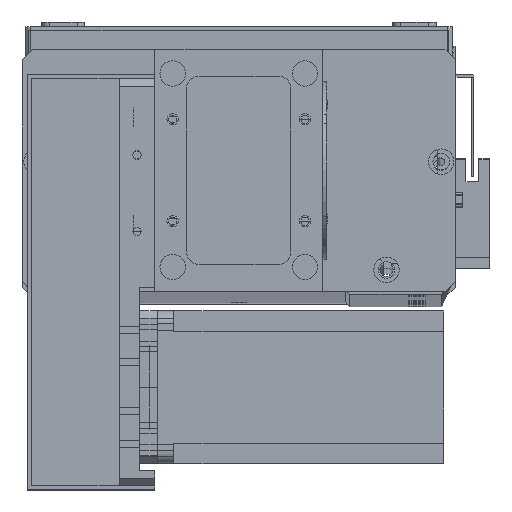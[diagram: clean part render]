
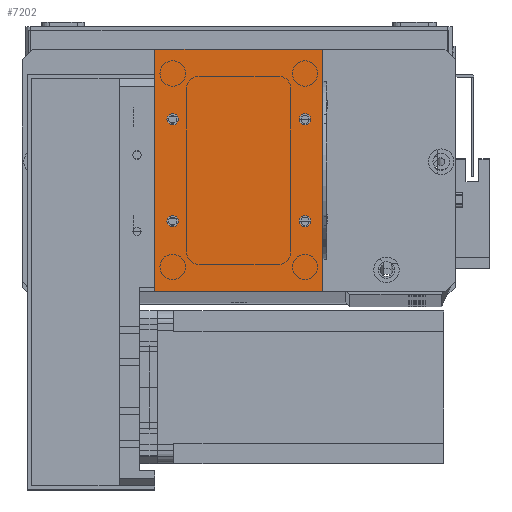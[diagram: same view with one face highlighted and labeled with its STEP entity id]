
A CAD part, top view. The second image highlights one B-rep face of the part: STEP entity #7202.
In plain terms, the highlighted planar face has unit normal (0, 0, 1).
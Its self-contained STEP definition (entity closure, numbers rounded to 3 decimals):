
#50 = VERTEX_POINT ( 'NONE', #9974 ) ;
#257 = FACE_BOUND ( 'NONE', #605, .T. ) ;
#336 = VERTEX_POINT ( 'NONE', #26473 ) ;
#574 = ORIENTED_EDGE ( 'NONE', *, *, #32109, .F. ) ;
#605 = EDGE_LOOP ( 'NONE', ( #28806, #15089 ) ) ;
#908 = ORIENTED_EDGE ( 'NONE', *, *, #6958, .F. ) ;
#1001 = PLANE ( 'NONE',  #17446 ) ;
#1168 = EDGE_CURVE ( 'NONE', #23320, #24716, #13493, .T. ) ;
#1724 = VERTEX_POINT ( 'NONE', #21221 ) ;
#2041 = EDGE_CURVE ( 'NONE', #25217, #5620, #30719, .T. ) ;
#2094 = CARTESIAN_POINT ( 'NONE',  ( 66., 0., 2. ) ) ;
#2713 = EDGE_LOOP ( 'NONE', ( #14219, #908 ) ) ;
#2746 = CIRCLE ( 'NONE', #27483, 2.25 ) ;
#3470 = ORIENTED_EDGE ( 'NONE', *, *, #17166, .T. ) ;
#4189 = VECTOR ( 'NONE', #4446, 1000. ) ;
#4446 = DIRECTION ( 'NONE',  ( 1., 0., 0. ) ) ;
#4497 = EDGE_LOOP ( 'NONE', ( #13840, #25683 ) ) ;
#4520 = DIRECTION ( 'NONE',  ( -1., 0., 0. ) ) ;
#4844 = DIRECTION ( 'NONE',  ( 0., 0., -1. ) ) ;
#4992 = ORIENTED_EDGE ( 'NONE', *, *, #11005, .F. ) ;
#5620 = VERTEX_POINT ( 'NONE', #24809 ) ;
#5787 = EDGE_LOOP ( 'NONE', ( #4992, #574 ) ) ;
#6302 = LINE ( 'NONE', #21252, #12642 ) ;
#6561 = DIRECTION ( 'NONE',  ( 0., -1., 0. ) ) ;
#6958 = EDGE_CURVE ( 'NONE', #24716, #23320, #21367, .T. ) ;
#7159 = CARTESIAN_POINT ( 'NONE',  ( 0., 0., 2. ) ) ;
#7202 = ADVANCED_FACE ( 'NONE', ( #7574, #21768, #257, #27924, #20953 ), #1001, .F. ) ;
#7574 = FACE_BOUND ( 'NONE', #2713, .T. ) ;
#7610 = LINE ( 'NONE', #9800, #4189 ) ;
#7942 = DIRECTION ( 'NONE',  ( -1., 0., 0. ) ) ;
#8202 = EDGE_CURVE ( 'NONE', #5620, #25217, #26207, .T. ) ;
#9144 = DIRECTION ( 'NONE',  ( 0., 0., 1. ) ) ;
#9800 = CARTESIAN_POINT ( 'NONE',  ( 0., 0., 2. ) ) ;
#9974 = CARTESIAN_POINT ( 'NONE',  ( 66., 95., 2. ) ) ;
#10239 = CIRCLE ( 'NONE', #21997, 2.25 ) ;
#10534 = AXIS2_PLACEMENT_3D ( 'NONE', #31676, #31668, #31636 ) ;
#10817 = CARTESIAN_POINT ( 'NONE',  ( 9.25, 27.5, 2. ) ) ;
#11005 = EDGE_CURVE ( 'NONE', #336, #25287, #21964, .T. ) ;
#11178 = AXIS2_PLACEMENT_3D ( 'NONE', #25842, #25660, #25629 ) ;
#11406 = CARTESIAN_POINT ( 'NONE',  ( 59., 67.5, 2. ) ) ;
#11888 = EDGE_CURVE ( 'NONE', #24877, #1724, #10239, .T. ) ;
#12423 = VECTOR ( 'NONE', #18158, 1000. ) ;
#12585 = CARTESIAN_POINT ( 'NONE',  ( 0., 0., 2. ) ) ;
#12623 = AXIS2_PLACEMENT_3D ( 'NONE', #11406, #29865, #14121 ) ;
#12642 = VECTOR ( 'NONE', #7942, 1000. ) ;
#13225 = CARTESIAN_POINT ( 'NONE',  ( 9.25, 67.5, 2. ) ) ;
#13493 = CIRCLE ( 'NONE', #15007, 2.25 ) ;
#13533 = EDGE_CURVE ( 'NONE', #33736, #24712, #7610, .T. ) ;
#13626 = DIRECTION ( 'NONE',  ( 0., 0., 1. ) ) ;
#13840 = ORIENTED_EDGE ( 'NONE', *, *, #11888, .F. ) ;
#13954 = ORIENTED_EDGE ( 'NONE', *, *, #13533, .T. ) ;
#14121 = DIRECTION ( 'NONE',  ( 1., 0., 0. ) ) ;
#14219 = ORIENTED_EDGE ( 'NONE', *, *, #1168, .F. ) ;
#15007 = AXIS2_PLACEMENT_3D ( 'NONE', #31471, #31438, #32953 ) ;
#15089 = ORIENTED_EDGE ( 'NONE', *, *, #8202, .F. ) ;
#16290 = CIRCLE ( 'NONE', #12623, 2.25 ) ;
#17166 = EDGE_CURVE ( 'NONE', #23149, #33736, #17475, .T. ) ;
#17446 = AXIS2_PLACEMENT_3D ( 'NONE', #7159, #4844, #4520 ) ;
#17475 = LINE ( 'NONE', #25187, #23653 ) ;
#17557 = CARTESIAN_POINT ( 'NONE',  ( 0., 95., 2. ) ) ;
#17835 = LINE ( 'NONE', #26106, #12423 ) ;
#17957 = ORIENTED_EDGE ( 'NONE', *, *, #27884, .T. ) ;
#18158 = DIRECTION ( 'NONE',  ( 0., 1., 0. ) ) ;
#18263 = DIRECTION ( 'NONE',  ( 1., 0., 0. ) ) ;
#18278 = CARTESIAN_POINT ( 'NONE',  ( 4.75, 67.5, 2. ) ) ;
#20511 = EDGE_CURVE ( 'NONE', #1724, #24877, #2746, .T. ) ;
#20953 = FACE_OUTER_BOUND ( 'NONE', #21699, .T. ) ;
#21221 = CARTESIAN_POINT ( 'NONE',  ( 4.75, 27.5, 2. ) ) ;
#21252 = CARTESIAN_POINT ( 'NONE',  ( 0., 95., 2. ) ) ;
#21367 = CIRCLE ( 'NONE', #23400, 2.25 ) ;
#21699 = EDGE_LOOP ( 'NONE', ( #3470, #13954, #17957, #27728 ) ) ;
#21768 = FACE_BOUND ( 'NONE', #5787, .T. ) ;
#21964 = CIRCLE ( 'NONE', #31565, 2.25 ) ;
#21997 = AXIS2_PLACEMENT_3D ( 'NONE', #31051, #27656, #18263 ) ;
#22078 = DIRECTION ( 'NONE',  ( 1., 0., 0. ) ) ;
#23149 = VERTEX_POINT ( 'NONE', #17557 ) ;
#23320 = VERTEX_POINT ( 'NONE', #13225 ) ;
#23400 = AXIS2_PLACEMENT_3D ( 'NONE', #27559, #9144, #22078 ) ;
#23653 = VECTOR ( 'NONE', #6561, 1000. ) ;
#24712 = VERTEX_POINT ( 'NONE', #2094 ) ;
#24716 = VERTEX_POINT ( 'NONE', #18278 ) ;
#24809 = CARTESIAN_POINT ( 'NONE',  ( 56.75, 27.5, 2. ) ) ;
#24877 = VERTEX_POINT ( 'NONE', #10817 ) ;
#25187 = CARTESIAN_POINT ( 'NONE',  ( 0., 0., 2. ) ) ;
#25217 = VERTEX_POINT ( 'NONE', #25437 ) ;
#25287 = VERTEX_POINT ( 'NONE', #33325 ) ;
#25437 = CARTESIAN_POINT ( 'NONE',  ( 61.25, 27.5, 2. ) ) ;
#25629 = DIRECTION ( 'NONE',  ( 1., 0., 0. ) ) ;
#25660 = DIRECTION ( 'NONE',  ( 0., 0., 1. ) ) ;
#25683 = ORIENTED_EDGE ( 'NONE', *, *, #20511, .F. ) ;
#25842 = CARTESIAN_POINT ( 'NONE',  ( 59., 27.5, 2. ) ) ;
#26106 = CARTESIAN_POINT ( 'NONE',  ( 66., 0., 2. ) ) ;
#26207 = CIRCLE ( 'NONE', #10534, 2.25 ) ;
#26473 = CARTESIAN_POINT ( 'NONE',  ( 61.25, 67.5, 2. ) ) ;
#27483 = AXIS2_PLACEMENT_3D ( 'NONE', #29359, #13626, #31969 ) ;
#27559 = CARTESIAN_POINT ( 'NONE',  ( 7., 67.5, 2. ) ) ;
#27656 = DIRECTION ( 'NONE',  ( 0., 0., 1. ) ) ;
#27728 = ORIENTED_EDGE ( 'NONE', *, *, #30889, .T. ) ;
#27884 = EDGE_CURVE ( 'NONE', #24712, #50, #17835, .T. ) ;
#27924 = FACE_BOUND ( 'NONE', #4497, .T. ) ;
#28806 = ORIENTED_EDGE ( 'NONE', *, *, #2041, .F. ) ;
#29359 = CARTESIAN_POINT ( 'NONE',  ( 7., 27.5, 2. ) ) ;
#29865 = DIRECTION ( 'NONE',  ( 0., 0., 1. ) ) ;
#30719 = CIRCLE ( 'NONE', #11178, 2.25 ) ;
#30889 = EDGE_CURVE ( 'NONE', #50, #23149, #6302, .T. ) ;
#31051 = CARTESIAN_POINT ( 'NONE',  ( 7., 27.5, 2. ) ) ;
#31409 = DIRECTION ( 'NONE',  ( 1., 0., 0. ) ) ;
#31438 = DIRECTION ( 'NONE',  ( 0., 0., 1. ) ) ;
#31471 = CARTESIAN_POINT ( 'NONE',  ( 7., 67.5, 2. ) ) ;
#31565 = AXIS2_PLACEMENT_3D ( 'NONE', #31698, #31627, #31409 ) ;
#31627 = DIRECTION ( 'NONE',  ( 0., 0., 1. ) ) ;
#31636 = DIRECTION ( 'NONE',  ( 1., 0., 0. ) ) ;
#31668 = DIRECTION ( 'NONE',  ( 0., 0., 1. ) ) ;
#31676 = CARTESIAN_POINT ( 'NONE',  ( 59., 27.5, 2. ) ) ;
#31698 = CARTESIAN_POINT ( 'NONE',  ( 59., 67.5, 2. ) ) ;
#31969 = DIRECTION ( 'NONE',  ( 1., 0., 0. ) ) ;
#32109 = EDGE_CURVE ( 'NONE', #25287, #336, #16290, .T. ) ;
#32953 = DIRECTION ( 'NONE',  ( 1., 0., 0. ) ) ;
#33325 = CARTESIAN_POINT ( 'NONE',  ( 56.75, 67.5, 2. ) ) ;
#33736 = VERTEX_POINT ( 'NONE', #12585 ) ;
